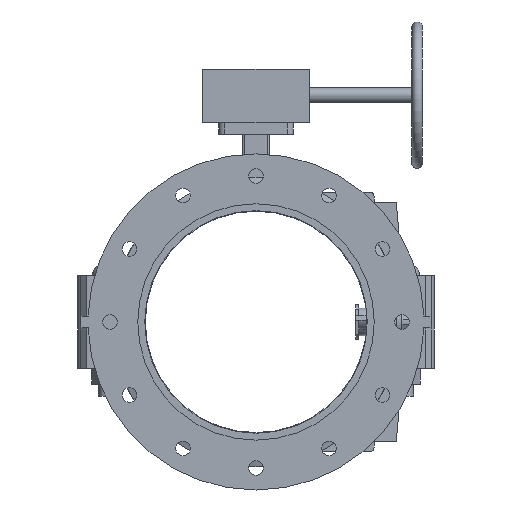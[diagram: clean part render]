
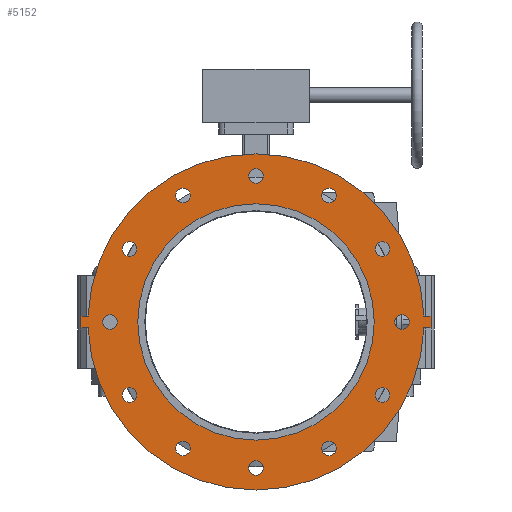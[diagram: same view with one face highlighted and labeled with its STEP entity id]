
A CAD part, front view. The second image highlights one B-rep face of the part: STEP entity #5152.
In plain terms, the highlighted planar face has unit normal (0, -1, 0) as drawn and (0, 0, -1) by its records, which use the part's own axes.
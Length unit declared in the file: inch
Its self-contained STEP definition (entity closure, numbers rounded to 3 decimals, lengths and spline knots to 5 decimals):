
#146=FACE_BOUND('',#701,.T.);
#147=FACE_BOUND('',#702,.T.);
#148=FACE_BOUND('',#703,.T.);
#149=FACE_BOUND('',#704,.T.);
#150=FACE_BOUND('',#705,.T.);
#151=FACE_BOUND('',#706,.T.);
#152=FACE_BOUND('',#707,.T.);
#153=FACE_BOUND('',#708,.T.);
#154=FACE_BOUND('',#709,.T.);
#155=FACE_BOUND('',#710,.T.);
#156=FACE_BOUND('',#711,.T.);
#157=FACE_BOUND('',#712,.T.);
#158=FACE_BOUND('',#713,.T.);
#223=PLANE('',#5629);
#405=FACE_OUTER_BOUND('',#700,.T.);
#700=EDGE_LOOP('',(#3396,#3397,#3398,#3399,#3400,#3401,#3402,#3403));
#701=EDGE_LOOP('',(#3404));
#702=EDGE_LOOP('',(#3405));
#703=EDGE_LOOP('',(#3406));
#704=EDGE_LOOP('',(#3407));
#705=EDGE_LOOP('',(#3408));
#706=EDGE_LOOP('',(#3409));
#707=EDGE_LOOP('',(#3410));
#708=EDGE_LOOP('',(#3411));
#709=EDGE_LOOP('',(#3412));
#710=EDGE_LOOP('',(#3413));
#711=EDGE_LOOP('',(#3414));
#712=EDGE_LOOP('',(#3415));
#713=EDGE_LOOP('',(#3416));
#1047=LINE('',#7863,#1414);
#1050=LINE('',#7869,#1417);
#1053=LINE('',#7874,#1420);
#1055=LINE('',#7879,#1422);
#1059=LINE('',#7886,#1426);
#1061=LINE('',#7889,#1428);
#1414=VECTOR('',#6295,0.3937);
#1417=VECTOR('',#6300,0.3937);
#1420=VECTOR('',#6305,0.3937);
#1422=VECTOR('',#6309,0.3937);
#1426=VECTOR('',#6315,0.3937);
#1428=VECTOR('',#6319,0.3937);
#1765=CIRCLE('',#5579,0.395);
#1767=CIRCLE('',#5582,0.395);
#1769=CIRCLE('',#5585,0.395);
#1771=CIRCLE('',#5588,0.395);
#1773=CIRCLE('',#5591,0.395);
#1775=CIRCLE('',#5594,0.395);
#1777=CIRCLE('',#5597,0.395);
#1779=CIRCLE('',#5600,0.395);
#1781=CIRCLE('',#5603,0.395);
#1783=CIRCLE('',#5606,0.395);
#1785=CIRCLE('',#5609,0.395);
#1787=CIRCLE('',#5612,0.395);
#1788=CIRCLE('',#5614,6.375);
#1790=CIRCLE('',#5617,9.065);
#1793=CIRCLE('',#5621,9.065);
#2071=VERTEX_POINT('',#7768);
#2073=VERTEX_POINT('',#7774);
#2075=VERTEX_POINT('',#7780);
#2077=VERTEX_POINT('',#7786);
#2079=VERTEX_POINT('',#7792);
#2081=VERTEX_POINT('',#7798);
#2083=VERTEX_POINT('',#7804);
#2085=VERTEX_POINT('',#7810);
#2087=VERTEX_POINT('',#7816);
#2089=VERTEX_POINT('',#7822);
#2091=VERTEX_POINT('',#7828);
#2093=VERTEX_POINT('',#7834);
#2094=VERTEX_POINT('',#7838);
#2096=VERTEX_POINT('',#7844);
#2098=VERTEX_POINT('',#7847);
#2100=VERTEX_POINT('',#7853);
#2103=VERTEX_POINT('',#7858);
#2104=VERTEX_POINT('',#7862);
#2106=VERTEX_POINT('',#7868);
#2108=VERTEX_POINT('',#7877);
#2109=VERTEX_POINT('',#7878);
#2567=EDGE_CURVE('',#2071,#2071,#1765,.T.);
#2570=EDGE_CURVE('',#2073,#2073,#1767,.T.);
#2573=EDGE_CURVE('',#2075,#2075,#1769,.T.);
#2576=EDGE_CURVE('',#2077,#2077,#1771,.T.);
#2579=EDGE_CURVE('',#2079,#2079,#1773,.T.);
#2582=EDGE_CURVE('',#2081,#2081,#1775,.T.);
#2585=EDGE_CURVE('',#2083,#2083,#1777,.T.);
#2588=EDGE_CURVE('',#2085,#2085,#1779,.T.);
#2591=EDGE_CURVE('',#2087,#2087,#1781,.T.);
#2594=EDGE_CURVE('',#2089,#2089,#1783,.T.);
#2597=EDGE_CURVE('',#2091,#2091,#1785,.T.);
#2600=EDGE_CURVE('',#2093,#2093,#1787,.T.);
#2601=EDGE_CURVE('',#2094,#2094,#1788,.T.);
#2605=EDGE_CURVE('',#2096,#2098,#1790,.T.);
#2611=EDGE_CURVE('',#2103,#2100,#1793,.T.);
#2612=EDGE_CURVE('',#2098,#2104,#1047,.T.);
#2615=EDGE_CURVE('',#2106,#2103,#1050,.T.);
#2618=EDGE_CURVE('',#2104,#2106,#1053,.T.);
#2620=EDGE_CURVE('',#2108,#2109,#1055,.T.);
#2624=EDGE_CURVE('',#2100,#2108,#1059,.T.);
#2626=EDGE_CURVE('',#2109,#2096,#1061,.T.);
#3396=ORIENTED_EDGE('',*,*,#2626,.F.);
#3397=ORIENTED_EDGE('',*,*,#2620,.F.);
#3398=ORIENTED_EDGE('',*,*,#2624,.F.);
#3399=ORIENTED_EDGE('',*,*,#2611,.F.);
#3400=ORIENTED_EDGE('',*,*,#2615,.F.);
#3401=ORIENTED_EDGE('',*,*,#2618,.F.);
#3402=ORIENTED_EDGE('',*,*,#2612,.F.);
#3403=ORIENTED_EDGE('',*,*,#2605,.F.);
#3404=ORIENTED_EDGE('',*,*,#2567,.T.);
#3405=ORIENTED_EDGE('',*,*,#2570,.T.);
#3406=ORIENTED_EDGE('',*,*,#2573,.T.);
#3407=ORIENTED_EDGE('',*,*,#2576,.T.);
#3408=ORIENTED_EDGE('',*,*,#2579,.T.);
#3409=ORIENTED_EDGE('',*,*,#2582,.T.);
#3410=ORIENTED_EDGE('',*,*,#2585,.T.);
#3411=ORIENTED_EDGE('',*,*,#2588,.T.);
#3412=ORIENTED_EDGE('',*,*,#2591,.T.);
#3413=ORIENTED_EDGE('',*,*,#2594,.T.);
#3414=ORIENTED_EDGE('',*,*,#2597,.T.);
#3415=ORIENTED_EDGE('',*,*,#2600,.T.);
#3416=ORIENTED_EDGE('',*,*,#2601,.T.);
#5152=ADVANCED_FACE('',(#405,#146,#147,#148,#149,#150,#151,#152,#153,#154,
#155,#156,#157,#158),#223,.F.);
#5579=AXIS2_PLACEMENT_3D('',#7770,#6191,#6192);
#5582=AXIS2_PLACEMENT_3D('',#7776,#6198,#6199);
#5585=AXIS2_PLACEMENT_3D('',#7782,#6205,#6206);
#5588=AXIS2_PLACEMENT_3D('',#7788,#6212,#6213);
#5591=AXIS2_PLACEMENT_3D('',#7794,#6219,#6220);
#5594=AXIS2_PLACEMENT_3D('',#7800,#6226,#6227);
#5597=AXIS2_PLACEMENT_3D('',#7806,#6233,#6234);
#5600=AXIS2_PLACEMENT_3D('',#7812,#6240,#6241);
#5603=AXIS2_PLACEMENT_3D('',#7818,#6247,#6248);
#5606=AXIS2_PLACEMENT_3D('',#7824,#6254,#6255);
#5609=AXIS2_PLACEMENT_3D('',#7830,#6261,#6262);
#5612=AXIS2_PLACEMENT_3D('',#7836,#6268,#6269);
#5614=AXIS2_PLACEMENT_3D('',#7839,#6272,#6273);
#5617=AXIS2_PLACEMENT_3D('',#7848,#6280,#6281);
#5621=AXIS2_PLACEMENT_3D('',#7860,#6291,#6292);
#5629=AXIS2_PLACEMENT_3D('',#7892,#6323,#6324);
#6191=DIRECTION('center_axis',(0.,0.,1.));
#6192=DIRECTION('ref_axis',(-0.5,-0.866,0.));
#6198=DIRECTION('center_axis',(0.,0.,1.));
#6199=DIRECTION('ref_axis',(-0.866,-0.5,0.));
#6205=DIRECTION('center_axis',(0.,0.,1.));
#6206=DIRECTION('ref_axis',(-1.,0.,0.));
#6212=DIRECTION('center_axis',(0.,0.,1.));
#6213=DIRECTION('ref_axis',(-0.866,0.5,0.));
#6219=DIRECTION('center_axis',(0.,0.,1.));
#6220=DIRECTION('ref_axis',(-0.5,0.866,0.));
#6226=DIRECTION('center_axis',(0.,0.,1.));
#6227=DIRECTION('ref_axis',(0.,1.,0.));
#6233=DIRECTION('center_axis',(0.,0.,1.));
#6234=DIRECTION('ref_axis',(0.5,0.866,0.));
#6240=DIRECTION('center_axis',(0.,0.,1.));
#6241=DIRECTION('ref_axis',(0.866,0.5,0.));
#6247=DIRECTION('center_axis',(0.,0.,1.));
#6248=DIRECTION('ref_axis',(1.,0.,0.));
#6254=DIRECTION('center_axis',(0.,0.,1.));
#6255=DIRECTION('ref_axis',(0.866,-0.5,0.));
#6261=DIRECTION('center_axis',(0.,0.,1.));
#6262=DIRECTION('ref_axis',(0.5,-0.866,0.));
#6268=DIRECTION('center_axis',(0.,0.,1.));
#6269=DIRECTION('ref_axis',(0.,-1.,0.));
#6272=DIRECTION('center_axis',(0.,0.,1.));
#6273=DIRECTION('ref_axis',(0.,-1.,0.));
#6280=DIRECTION('center_axis',(0.,0.,1.));
#6281=DIRECTION('ref_axis',(0.,1.,0.));
#6291=DIRECTION('center_axis',(0.,0.,1.));
#6292=DIRECTION('ref_axis',(0.,1.,0.));
#6295=DIRECTION('',(0.,-1.,0.));
#6300=DIRECTION('',(0.,1.,0.));
#6305=DIRECTION('',(1.,0.,0.));
#6309=DIRECTION('',(-1.,0.,0.));
#6315=DIRECTION('',(0.,1.,0.));
#6319=DIRECTION('',(0.,-1.,0.));
#6323=DIRECTION('center_axis',(0.,0.,1.));
#6324=DIRECTION('ref_axis',(0.,1.,0.));
#7768=CARTESIAN_POINT('',(-6.62245,4.27958,0.));
#7770=CARTESIAN_POINT('Origin',(-6.81995,3.9375,0.));
#7774=CARTESIAN_POINT('',(-3.59542,7.01745,0.));
#7776=CARTESIAN_POINT('Origin',(-3.9375,6.81995,0.));
#7780=CARTESIAN_POINT('',(0.395,7.875,0.));
#7782=CARTESIAN_POINT('Origin',(0.,7.875,0.));
#7786=CARTESIAN_POINT('',(4.27958,6.62245,0.));
#7788=CARTESIAN_POINT('Origin',(3.9375,6.81995,0.));
#7792=CARTESIAN_POINT('',(7.01745,3.59542,0.));
#7794=CARTESIAN_POINT('Origin',(6.81995,3.9375,0.));
#7798=CARTESIAN_POINT('',(7.875,-0.395,0.));
#7800=CARTESIAN_POINT('Origin',(7.875,0.,0.));
#7804=CARTESIAN_POINT('',(6.62245,-4.27958,0.));
#7806=CARTESIAN_POINT('Origin',(6.81995,-3.9375,0.));
#7810=CARTESIAN_POINT('',(3.59542,-7.01745,0.));
#7812=CARTESIAN_POINT('Origin',(3.9375,-6.81995,0.));
#7816=CARTESIAN_POINT('',(-0.395,-7.875,0.));
#7818=CARTESIAN_POINT('Origin',(0.,-7.875,0.));
#7822=CARTESIAN_POINT('',(-4.27958,-6.62245,0.));
#7824=CARTESIAN_POINT('Origin',(-3.9375,-6.81995,0.));
#7828=CARTESIAN_POINT('',(-7.01745,-3.59542,0.));
#7830=CARTESIAN_POINT('Origin',(-6.81995,-3.9375,0.));
#7834=CARTESIAN_POINT('',(-7.875,0.395,0.));
#7836=CARTESIAN_POINT('Origin',(-7.875,0.,0.));
#7838=CARTESIAN_POINT('',(0.,6.375,0.));
#7839=CARTESIAN_POINT('Origin',(0.,0.,0.));
#7844=CARTESIAN_POINT('',(-0.32,9.05935,0.));
#7847=CARTESIAN_POINT('',(-0.32,-9.05935,0.));
#7848=CARTESIAN_POINT('Origin',(0.,0.,0.));
#7853=CARTESIAN_POINT('',(0.32,9.05935,0.));
#7858=CARTESIAN_POINT('',(0.32,-9.05935,0.));
#7860=CARTESIAN_POINT('Origin',(0.,0.,0.));
#7862=CARTESIAN_POINT('',(-0.32,-9.44,0.));
#7863=CARTESIAN_POINT('',(-0.32,-9.05935,0.));
#7868=CARTESIAN_POINT('',(0.32,-9.44,0.));
#7869=CARTESIAN_POINT('',(0.32,-9.44,0.));
#7874=CARTESIAN_POINT('',(-0.32,-9.44,0.));
#7877=CARTESIAN_POINT('',(0.32,9.44,0.));
#7878=CARTESIAN_POINT('',(-0.32,9.44,0.));
#7879=CARTESIAN_POINT('',(0.32,9.44,0.));
#7886=CARTESIAN_POINT('',(0.32,9.05935,0.));
#7889=CARTESIAN_POINT('',(-0.32,9.44,0.));
#7892=CARTESIAN_POINT('Origin',(0.,9.26681,0.));
